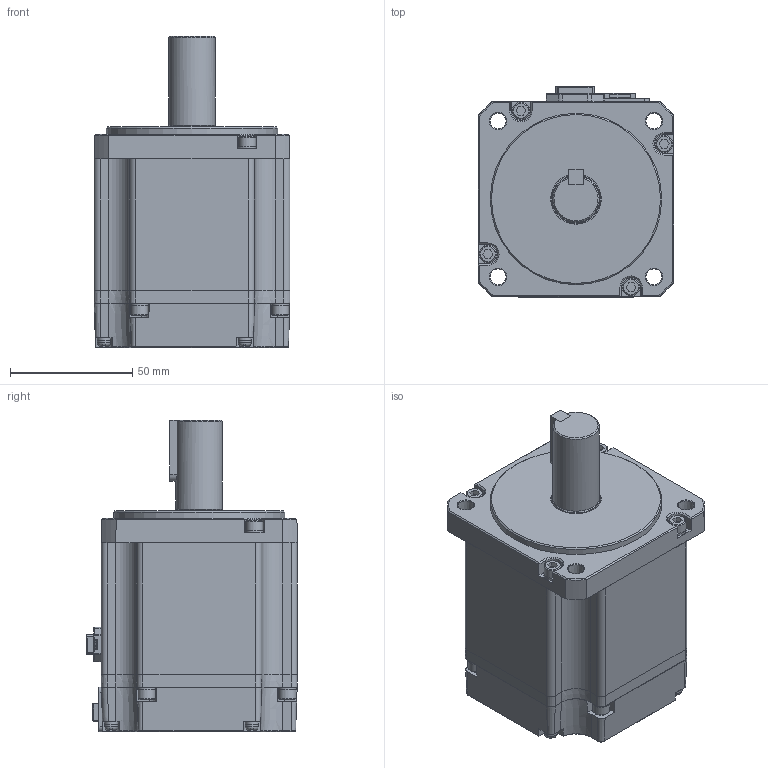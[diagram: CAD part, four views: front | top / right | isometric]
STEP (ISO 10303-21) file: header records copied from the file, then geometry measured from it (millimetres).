
FILE_DESCRIPTION (( 'STEP AP214' ), '1' );
FILE_NAME ('EM08GA001G02_Out Line(APM-EC06AM3K).STEP', '2022-11-04T03:10:56', ( '' ), ( '' ), 'SwSTEP 2.0', 'SolidWorks 2021', '' );
FILE_SCHEMA (( 'AUTOMOTIVE_DESIGN' ));
Length unit declared in the file: millimetre
Products named in the file (1): EM08GA001G02_Out Line(APM-EC06AM3K)
Bounding box: 80 x 85.9 x 127.2 mm (x, y, z)
Volume: 514133.2 mm3; surface area: 88244 mm2
Topology: 34 solids, 34 shells, 1438 faces, 3568 edges, 2268 vertices
Faces by surface type: plane 1039, cylinder 209, cone 124, torus 31, bspline 21, sphere 14
Full cylindrical faces by diameter (mm): 1.589 x1, 1.6 x9, 2 x2, 2.1 x2, 2.5 x4, 3 x8, 3.3 x8, 4 x12, 4.5 x8, 5.4 x8, 7 x8, 7.2 x8, 19 x1, 19.8 x1, 20.6 x1, 70 x1
Entity records: 58318 total; most frequent: CARTESIAN_POINT 8892, ORIENTED_EDGE 6772, DIRECTION 6549, EDGE_CURVE 3386, VECTOR 2515, LINE 2515, VERTEX_POINT 2229, AXIS2_PLACEMENT_3D 2017
